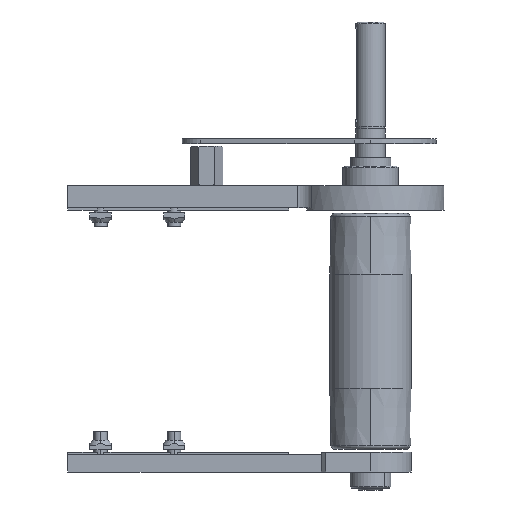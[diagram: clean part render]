
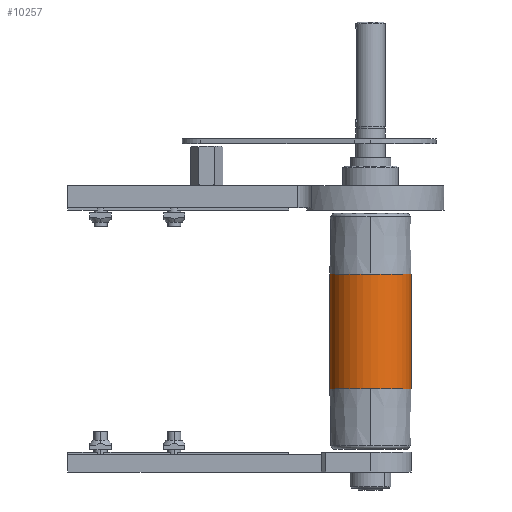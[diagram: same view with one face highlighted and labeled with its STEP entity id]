
A CAD part, front view. The second image highlights one B-rep face of the part: STEP entity #10257.
In plain terms, the highlighted cylindrical face has radius 25 mm (diameter 50 mm), a partial arc.
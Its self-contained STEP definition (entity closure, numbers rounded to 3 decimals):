
#16 = CARTESIAN_POINT ( 'NONE',  ( -25., 0., 35. ) ) ;
#79 = CARTESIAN_POINT ( 'NONE',  ( 25., 0., 35. ) ) ;
#384 = VERTEX_POINT ( 'NONE', #79 ) ;
#751 = VERTEX_POINT ( 'NONE', #16 ) ;
#1014 = VERTEX_POINT ( 'NONE', #6009 ) ;
#1179 = VERTEX_POINT ( 'NONE', #6075 ) ;
#1227 = VERTEX_POINT ( 'NONE', #6125 ) ;
#1779 = DIRECTION ( 'NONE',  ( 1., 0., 0. ) ) ;
#1781 = DIRECTION ( 'NONE',  ( 0., 0., -1. ) ) ;
#1783 = CARTESIAN_POINT ( 'NONE',  ( 0., 0., 70. ) ) ;
#2443 = CARTESIAN_POINT ( 'NONE',  ( 0., 0., 35. ) ) ;
#2497 = DIRECTION ( 'NONE',  ( 0., 0., -1. ) ) ;
#2501 = DIRECTION ( 'NONE',  ( 0., 1., 0. ) ) ;
#2674 = EDGE_CURVE ( 'NONE', #384, #1227, #7788, .T. ) ;
#2804 = EDGE_CURVE ( 'NONE', #384, #6525, #8135, .T. ) ;
#2805 = EDGE_CURVE ( 'NONE', #6525, #1179, #7798, .T. ) ;
#2812 = EDGE_CURVE ( 'NONE', #751, #1014, #8310, .T. ) ;
#2831 = EDGE_CURVE ( 'NONE', #1179, #1014, #7720, .T. ) ;
#3572 = AXIS2_PLACEMENT_3D ( 'NONE', #2443, #2497, #2501 ) ;
#3622 = AXIS2_PLACEMENT_3D ( 'NONE', #6329, #6272, #5981 ) ;
#3802 = AXIS2_PLACEMENT_3D ( 'NONE', #4142, #4433, #4434 ) ;
#3871 = AXIS2_PLACEMENT_3D ( 'NONE', #4368, #4396, #4306 ) ;
#4066 = EDGE_CURVE ( 'NONE', #1227, #751, #9112, .T. ) ;
#4141 = CARTESIAN_POINT ( 'NONE',  ( 25., 0., 70. ) ) ;
#4142 = CARTESIAN_POINT ( 'NONE',  ( 0., 0., -35. ) ) ;
#4306 = DIRECTION ( 'NONE',  ( 0., 1., 0. ) ) ;
#4368 = CARTESIAN_POINT ( 'NONE',  ( 0., 0., -35. ) ) ;
#4396 = DIRECTION ( 'NONE',  ( 0., 0., -1. ) ) ;
#4423 = DIRECTION ( 'NONE',  ( 0., 0., -1. ) ) ;
#4433 = DIRECTION ( 'NONE',  ( 0., 0., -1. ) ) ;
#4434 = DIRECTION ( 'NONE',  ( 0., 1., 0. ) ) ;
#4476 = DIRECTION ( 'NONE',  ( 0., 0., -1. ) ) ;
#4534 = CARTESIAN_POINT ( 'NONE',  ( -25., 0., 70. ) ) ;
#4774 = CARTESIAN_POINT ( 'NONE',  ( 25., 0., -35. ) ) ;
#5981 = DIRECTION ( 'NONE',  ( 0., 1., 0. ) ) ;
#6009 = CARTESIAN_POINT ( 'NONE',  ( -25., 0., -35. ) ) ;
#6075 = CARTESIAN_POINT ( 'NONE',  ( 0., -25., -35. ) ) ;
#6125 = CARTESIAN_POINT ( 'NONE',  ( 0., -25., 35. ) ) ;
#6272 = DIRECTION ( 'NONE',  ( 0., 0., -1. ) ) ;
#6329 = CARTESIAN_POINT ( 'NONE',  ( 0., 0., 35. ) ) ;
#6525 = VERTEX_POINT ( 'NONE', #4774 ) ;
#7389 = AXIS2_PLACEMENT_3D ( 'NONE', #1783, #1781, #1779 ) ;
#7720 = CIRCLE ( 'NONE', #3871, 25. ) ;
#7788 = CIRCLE ( 'NONE', #3622, 25. ) ;
#7798 = CIRCLE ( 'NONE', #3802, 25. ) ;
#8135 = LINE ( 'NONE', #4141, #8298 ) ;
#8142 = VECTOR ( 'NONE', #4476, 1000. ) ;
#8298 = VECTOR ( 'NONE', #4423, 1000. ) ;
#8310 = LINE ( 'NONE', #4534, #8142 ) ;
#9112 = CIRCLE ( 'NONE', #3572, 25. ) ;
#9459 = ORIENTED_EDGE ( 'NONE', *, *, #2804, .F. ) ;
#9589 = ORIENTED_EDGE ( 'NONE', *, *, #2831, .F. ) ;
#9646 = ORIENTED_EDGE ( 'NONE', *, *, #2805, .F. ) ;
#9693 = ORIENTED_EDGE ( 'NONE', *, *, #2812, .T. ) ;
#9694 = ORIENTED_EDGE ( 'NONE', *, *, #2674, .T. ) ;
#9730 = EDGE_LOOP ( 'NONE', ( #9807, #9693, #9589, #9646, #9459, #9694 ) ) ;
#9807 = ORIENTED_EDGE ( 'NONE', *, *, #4066, .T. ) ;
#10257 = ADVANCED_FACE ( 'NONE', ( #10463 ), #10334, .T. ) ;
#10334 = CYLINDRICAL_SURFACE ( 'NONE', #7389, 25. ) ;
#10463 = FACE_OUTER_BOUND ( 'NONE', #9730, .T. ) ;
